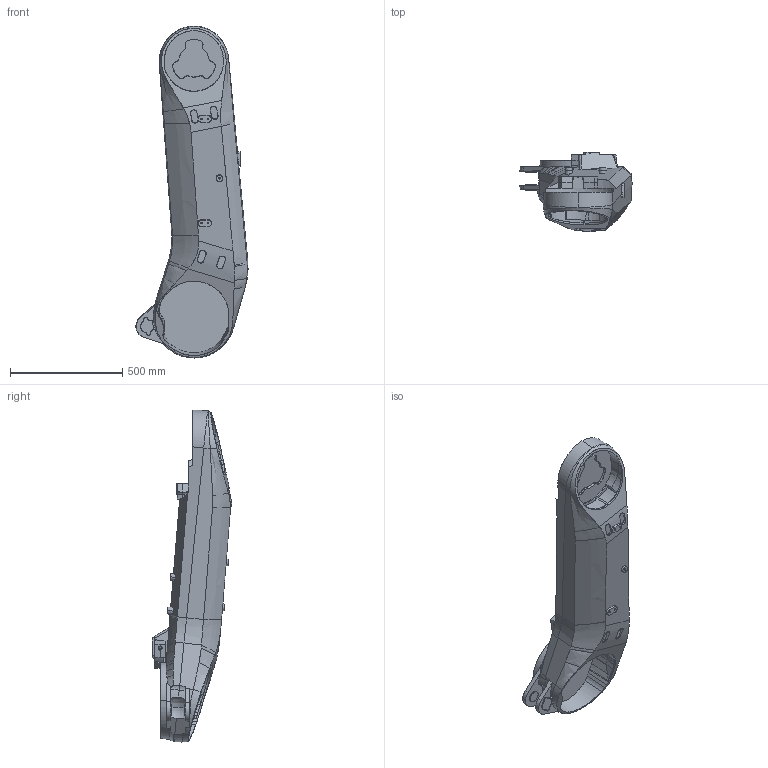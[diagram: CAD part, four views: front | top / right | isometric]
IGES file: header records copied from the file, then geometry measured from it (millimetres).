
Start section: SolidWorks IGES file using analytic representation for surfaces
Global section: file name: B:\Robotics\SEROP_PROJ\Product Development\DevelopmentProjects\RobCal\Design\CAD simuleringsmodeller\Till_RobotStudio\IRB6700-HL\IRB6700_235-265_IRC5_rev02\IRB6700_235-265_IRC5_rev02_IGES_j\IRB6700_235-265_IRC5_rev03_LINK02_CAD.IGS; native system: SolidWorks 2014; preprocessor: SolidWorks 2014; author: SEEMTHE; date: 160127.112434; units: millimetre
Bounding box: 499.47 x 353 x 1478.96 mm (x, y, z)
Surface area: 1853333.3 mm2 (no closed solid volume)
Topology: 0 solids, 0 shells, 550 faces, 9802 edges, 9783 vertices
Faces by surface type: bspline 450, revolution 100
